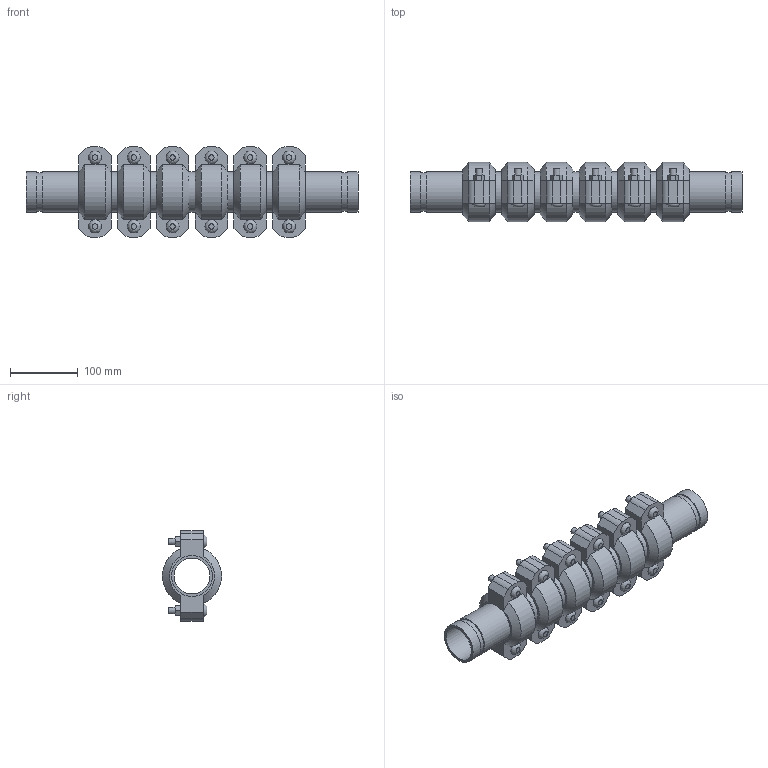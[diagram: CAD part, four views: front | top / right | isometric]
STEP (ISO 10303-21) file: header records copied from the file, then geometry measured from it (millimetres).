
FILE_DESCRIPTION(/* description */ ('VIC SS EXPANSION JOINT 6 COUPLINGS COMPRESSED STYLE 155P (OGS) (POTABLE WATER) ','CAx-IF Rec.Pracs.---Representation and Presentation of Product Manufacturing Information (PMI)---4.0---2014-10-13'),/* implementation_level */ '2;1');
FILE_NAME(/* name */ 'C:\Users\kkamble\AppData\Roaming\Autodesk\ApplicationPlugins\Victaulic.Temp\A518\Victaulic_SS_Expansion Joint_Compressed_6 Couplings_Style 155P (OGS)-Potable Water_6 Coup_Comp_2 (50).stp',/* time_stamp */ '2021-07-16T17:14:28+06:00',/* author */ ('kkamble'),/* organization */ ('Victaulic'),/* preprocessor_version */ 'ST-DEVELOPER v17.2',/* originating_system */ 'Autodesk Inventor 2019',/* authorisation */ '');
FILE_SCHEMA (('AP242_MANAGED_MODEL_BASED_3D_ENGINEERING_MIM_LF { 1 0 10303 442 1 1 4 }'));
Length unit declared in the file: inch
Products named in the file (4): 155-02.0; Nipple-02.0; Nipple-02.0_1; 075-02.0
Assembly tree (13 placements, depth 2):
  155-02.0
    Nipple-02.0  x2
    Nipple-02.0_1  x5
    075-02.0  x6
Bounding box: 488.95 x 87.12 x 132.59 mm (x, y, z)
Volume: 1506286.3 mm3; surface area: 422448.9 mm2
Topology: 13 solids, 25 shells, 402 faces, 972 edges, 684 vertices
Faces by surface type: plane 246, cylinder 120, cone 24, bspline 12
Full cylindrical faces by diameter (mm): 9.525 x24, 11.43 x12, 52.502 x7, 57.15 x14, 60.325 x27
Entity records: 2705 total; most frequent: CARTESIAN_POINT 483, DIRECTION 451, ORIENTED_EDGE 374, EDGE_CURVE 187, AXIS2_PLACEMENT_3D 180, VERTEX_POINT 134, EDGE_LOOP 101, LINE 91
